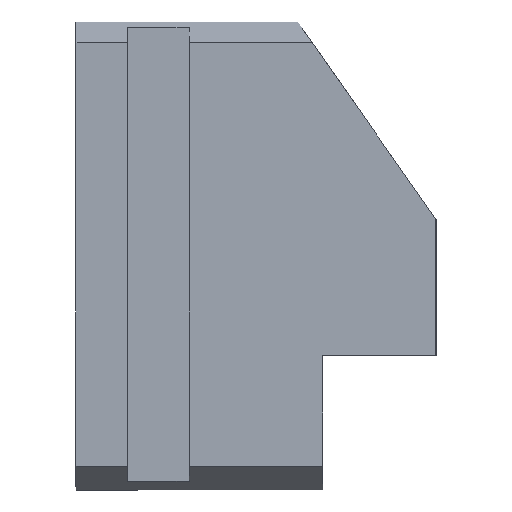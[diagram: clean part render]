
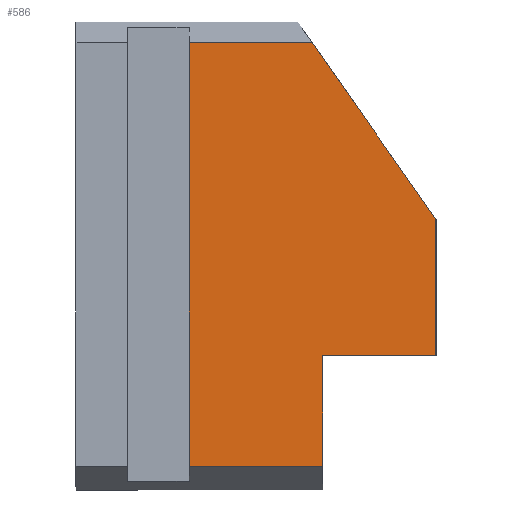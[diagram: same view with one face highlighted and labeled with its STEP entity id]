
A CAD part, front view. The second image highlights one B-rep face of the part: STEP entity #586.
In plain terms, the highlighted planar face has unit normal (0, -1, 0) as drawn and (0, 1, 0) by its records, which use the part's own axes.
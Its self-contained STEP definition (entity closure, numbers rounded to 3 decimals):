
#426=CARTESIAN_POINT('Vertex',(87.,13.,23.926)) ;
#454=CARTESIAN_POINT('Vertex',(87.,13.,0.)) ;
#457=CARTESIAN_POINT('Line Origine',(87.,13.,11.963)) ;
#473=CARTESIAN_POINT('Axis2P3D Location',(0.,13.,-12.)) ;
#502=CARTESIAN_POINT('Line Origine',(4.619,13.,13.)) ;
#506=CARTESIAN_POINT('Vertex',(4.619,13.,26.)) ;
#508=CARTESIAN_POINT('Vertex',(4.619,13.,0.)) ;
#546=CARTESIAN_POINT('Line Origine',(45.809,13.,0.)) ;
#551=CARTESIAN_POINT('Line Origine',(15.362,13.,26.)) ;
#555=CARTESIAN_POINT('Vertex',(26.106,13.,26.)) ;
#558=CARTESIAN_POINT('Line Origine',(26.106,13.,37.)) ;
#562=CARTESIAN_POINT('Vertex',(26.106,13.,48.)) ;
#565=CARTESIAN_POINT('Line Origine',(39.362,13.,48.)) ;
#569=CARTESIAN_POINT('Vertex',(52.619,13.,48.)) ;
#572=CARTESIAN_POINT('Line Origine',(69.809,13.,35.963)) ;
#458=DIRECTION('Vector Direction',(0.,0.,-1.)) ;
#474=DIRECTION('Axis2P3D Direction',(0.,-1.,0.)) ;
#475=DIRECTION('Axis2P3D XDirection',(0.,0.,-1.)) ;
#503=DIRECTION('Vector Direction',(0.,0.,-1.)) ;
#547=DIRECTION('Vector Direction',(1.,0.,0.)) ;
#552=DIRECTION('Vector Direction',(1.,0.,0.)) ;
#559=DIRECTION('Vector Direction',(0.,0.,1.)) ;
#566=DIRECTION('Vector Direction',(1.,0.,0.)) ;
#573=DIRECTION('Vector Direction',(0.819,0.,-0.574)) ;
#476=AXIS2_PLACEMENT_3D('Plane Axis2P3D',#473,#474,#475) ;
#578=ORIENTED_EDGE('',*,*,#461,.T.) ;
#579=ORIENTED_EDGE('',*,*,#550,.F.) ;
#580=ORIENTED_EDGE('',*,*,#510,.F.) ;
#581=ORIENTED_EDGE('',*,*,#557,.F.) ;
#582=ORIENTED_EDGE('',*,*,#564,.F.) ;
#583=ORIENTED_EDGE('',*,*,#571,.T.) ;
#584=ORIENTED_EDGE('',*,*,#576,.F.) ;
#459=VECTOR('Line Direction',#458,1.) ;
#504=VECTOR('Line Direction',#503,1.) ;
#548=VECTOR('Line Direction',#547,1.) ;
#553=VECTOR('Line Direction',#552,1.) ;
#560=VECTOR('Line Direction',#559,1.) ;
#567=VECTOR('Line Direction',#566,1.) ;
#574=VECTOR('Line Direction',#573,1.) ;
#586=ADVANCED_FACE('',(#585),#477,.F.) ;
#461=EDGE_CURVE('',#427,#455,#460,.T.) ;
#510=EDGE_CURVE('',#507,#509,#505,.T.) ;
#550=EDGE_CURVE('',#509,#455,#549,.T.) ;
#557=EDGE_CURVE('',#556,#507,#554,.F.) ;
#564=EDGE_CURVE('',#563,#556,#561,.F.) ;
#571=EDGE_CURVE('',#563,#570,#568,.T.) ;
#576=EDGE_CURVE('',#427,#570,#575,.F.) ;
#577=EDGE_LOOP('',(#578,#579,#580,#581,#582,#583,#584)) ;
#585=FACE_OUTER_BOUND('',#577,.T.) ;
#460=LINE('Line',#457,#459) ;
#505=LINE('Line',#502,#504) ;
#549=LINE('Line',#546,#548) ;
#554=LINE('Line',#551,#553) ;
#561=LINE('Line',#558,#560) ;
#568=LINE('Line',#565,#567) ;
#575=LINE('Line',#572,#574) ;
#477=PLANE('Plane',#476) ;
#427=VERTEX_POINT('',#426) ;
#455=VERTEX_POINT('',#454) ;
#507=VERTEX_POINT('',#506) ;
#509=VERTEX_POINT('',#508) ;
#556=VERTEX_POINT('',#555) ;
#563=VERTEX_POINT('',#562) ;
#570=VERTEX_POINT('',#569) ;
